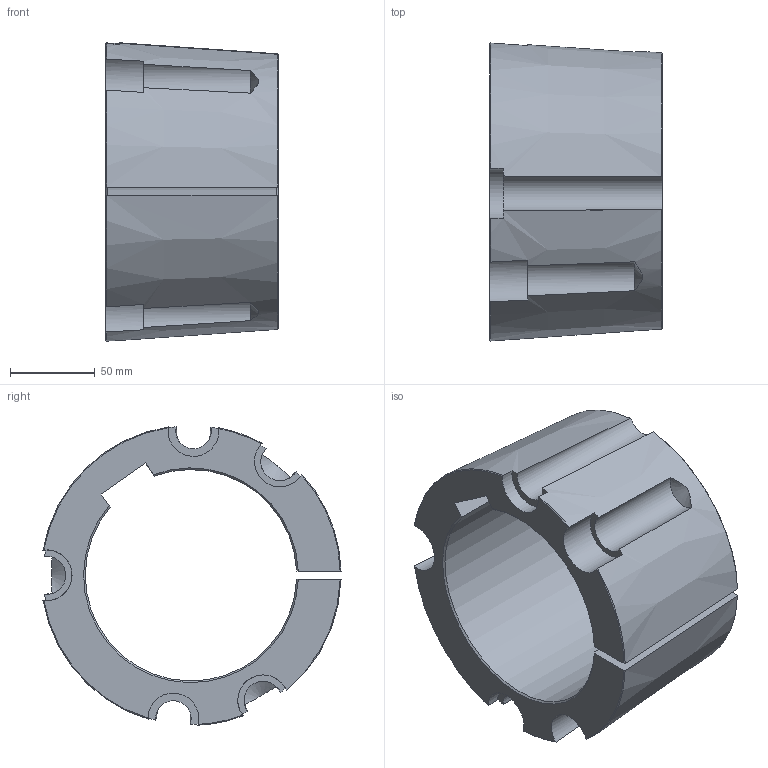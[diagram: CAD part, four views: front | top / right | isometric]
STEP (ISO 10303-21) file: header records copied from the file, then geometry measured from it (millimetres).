
FILE_DESCRIPTION(/* description */ (''),/* implementation_level */ '2;1');
FILE_NAME(/* name */ 'C:\Users\stagistaCAD\Desktop\Nuova cartella\29504125.stp',/* time_stamp */ '2018-06-29T15:00:31+02:00',/* author */ ('stagistacad'),/* organization */ (''),/* preprocessor_version */ 'ST-DEVELOPER v15.6',/* originating_system */ 'Autodesk Inventor 2015',/* authorisation */ '');
FILE_SCHEMA (('AUTOMOTIVE_DESIGN { 1 0 10303 214 3 1 1 }'));
Length unit declared in the file: millimetre
Products named in the file (1): 29504125
Bounding box: 102 x 176.23 x 176.47 mm (x, y, z)
Volume: 937103 mm3; surface area: 124482.5 mm2
Topology: 1 solids, 1 shells, 45 faces, 129 edges, 86 vertices
Faces by surface type: cone 19, cylinder 14, plane 12
Entity records: 1660 total; most frequent: CARTESIAN_POINT 486, ORIENTED_EDGE 258, DIRECTION 238, EDGE_CURVE 129, AXIS2_PLACEMENT_3D 106, VERTEX_POINT 86, CIRCLE 60, FACE_OUTER_BOUND 45
